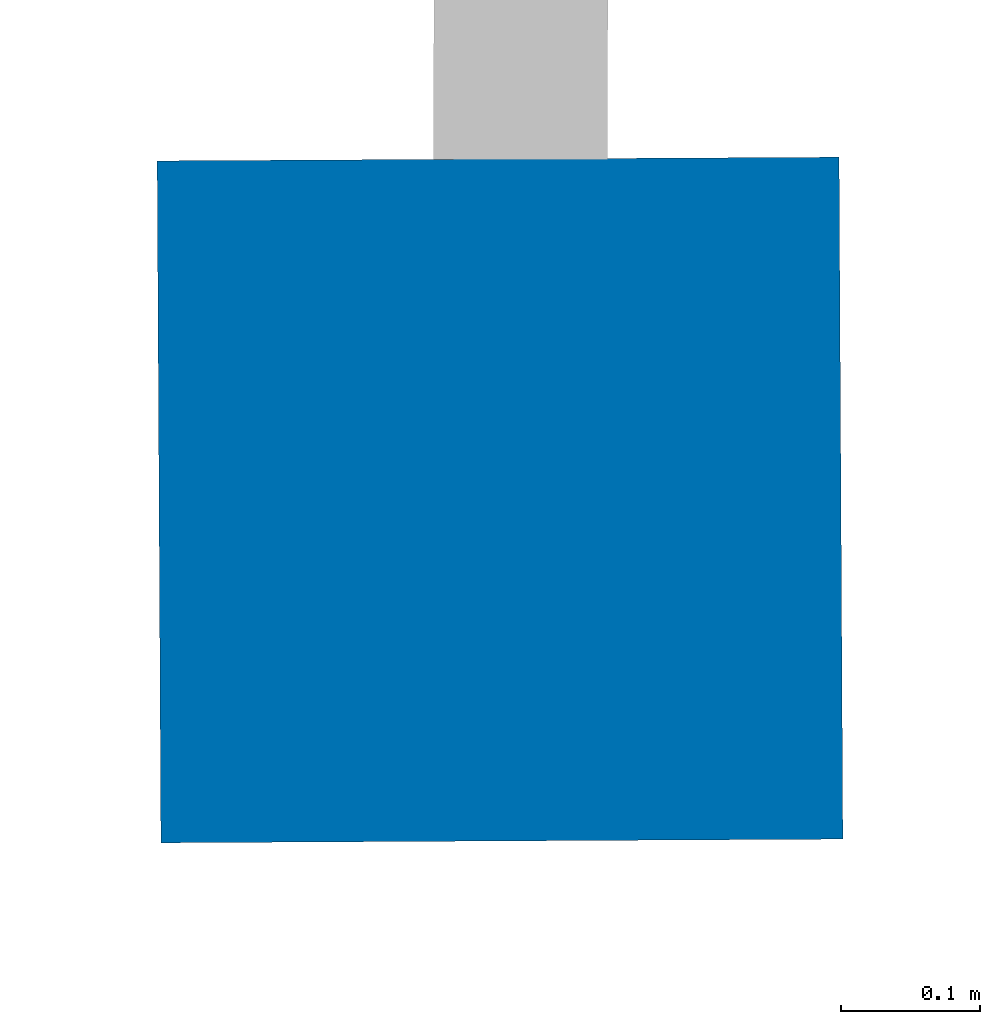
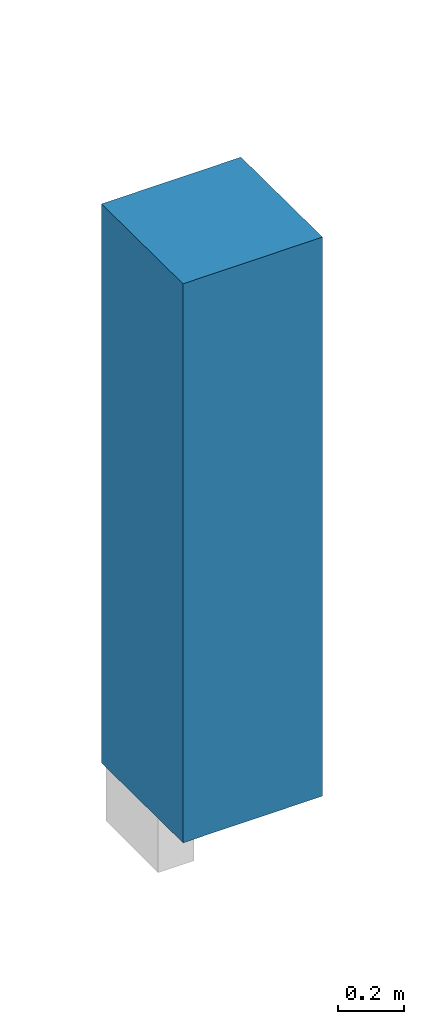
# One storey, part 5 of 196: 1 column.
"""IFC2X3 building model written with IfcOpenShell, lengths in metres."""

import ifcopenshell
import ifcopenshell.guid

model = None  # the IFC model being written
_history = None  # IfcOwnerHistory: only IFC2X3 demands one
_inside = {}  # id of a spatial element -> (the spatial element, [elements in it])
_under = {}  # id of a project, library or spatial element -> (it, [spatial elements below it])
_declared = {}  # id of a project -> (the project, [libraries it declares])
_typed = {}  # id of a type object -> (the type object, [elements of that type])
_made_of = {}  # id of a material, layer set ... -> (it, [elements and type objects made of it])


def new_model(schema):
    """Start an empty IFC model of exactly this schema.

    Asked for "IFC4X3", IfcOpenShell would pick the latest addendum, in which some entities
    have other attributes; the version numbers below select the first issue.
    IFC2X3 requires an IfcOwnerHistory on every rooted entity: one is made here for all.
    """
    global model, _history
    if schema == "IFC4X3":
        model = ifcopenshell.file(schema_version=(4, 3, 0, 0))
    else:
        model = ifcopenshell.file(schema=schema)
    _inside.clear()
    _under.clear()
    _declared.clear()
    _typed.clear()
    _made_of.clear()
    _history = None
    if model.schema == "IFC2X3":
        org = make("IfcOrganization", Name="unknown")
        user = make(
            "IfcPersonAndOrganization",
            ThePerson=make("IfcPerson", FamilyName="unknown"),
            TheOrganization=org,
        )
        app = make(
            "IfcApplication",
            ApplicationDeveloper=org,
            Version="unknown",
            ApplicationFullName="unknown",
            ApplicationIdentifier="unknown",
        )
        _history = make(
            "IfcOwnerHistory",
            OwningUser=user,
            OwningApplication=app,
            ChangeAction="ADDED",
            CreationDate=0,
        )
    return model


def make(cls, **values):
    """One entity of the class cls with the attributes given. An attribute that is None is left unset."""
    return model.create_entity(
        cls, **{name: value for name, value in values.items() if value is not None}
    )


def entity(cls, *values):
    """Any entity or typed value of the class cls, its attributes in the order of the schema. None: left unset."""
    e = model.create_entity(cls)
    for i, value in enumerate(values):
        if value is not None:
            e[i] = value
    return e


def rooted(cls, **values):
    """An entity with a GlobalId (a new one), such as an element, a storey or a relation."""
    return make(cls, GlobalId=ifcopenshell.guid.new(), OwnerHistory=_history, **values)


def si_unit(unit_type, name, prefix=None):
    """IfcSIUnit, for example si_unit("LENGTHUNIT", "METRE", prefix="MILLI")."""
    return make("IfcSIUnit", UnitType=unit_type, Prefix=prefix, Name=name)


def converted_unit(unit_type, name, factor, base, dimensions=None, offset=None):
    """IfcConversionBasedUnit, such as the inch: factor (a typed value) times the base unit."""
    return make(
        "IfcConversionBasedUnit"
        if offset is None
        else "IfcConversionBasedUnitWithOffset",
        ConversionOffset=offset,
        Dimensions=None
        if dimensions is None
        else entity("IfcDimensionalExponents", *dimensions),
        UnitType=unit_type,
        Name=name,
        ConversionFactor=make(
            "IfcMeasureWithUnit", ValueComponent=factor, UnitComponent=base
        ),
    )


def derived_unit(unit_type, elements):
    """IfcDerivedUnit: a product of units, each with its exponent."""
    return make(
        "IfcDerivedUnit",
        Elements=[
            make("IfcDerivedUnitElement", Unit=unit, Exponent=power)
            for unit, power in elements
        ],
        UnitType=unit_type,
    )


def money_unit(currency):
    """IfcMonetaryUnit."""
    return make("IfcMonetaryUnit", Currency=currency)


def assignment(units):
    """IfcUnitAssignment: the units of a project."""
    return None if units is None else make("IfcUnitAssignment", Units=units)


def point(xyz):
    """IfcCartesianPoint."""
    return None if xyz is None else make("IfcCartesianPoint", Coordinates=xyz)


def direction(xyz):
    """IfcDirection."""
    return None if xyz is None else make("IfcDirection", DirectionRatios=xyz)


def frame(location, z_axis=None, x_axis=None):
    """IfcAxis2Placement3D, a coordinate frame: its origin and axes. An axis left out is left unset."""
    return make(
        "IfcAxis2Placement3D",
        Location=point(location),
        Axis=direction(z_axis),
        RefDirection=direction(x_axis),
    )


def frame_2d(location, x_axis=None):
    """IfcAxis2Placement2D, a coordinate frame in the plane: its origin and x axis."""
    return make(
        "IfcAxis2Placement2D", Location=point(location), RefDirection=direction(x_axis)
    )


def origin_with_axes():
    """The frame at (0, 0, 0) with the z axis (0, 0, 1) and the x axis (1, 0, 0) written out."""
    return frame((0.0, 0.0, 0.0), z_axis=(0.0, 0.0, 1.0), x_axis=(1.0, 0.0, 0.0))


def origin_2d_with_axis():
    """The frame at (0, 0) in the plane with the x axis (1, 0) written out."""
    return frame_2d((0.0, 0.0), x_axis=(1.0, 0.0))


def place(relative_to, where):
    """IfcLocalPlacement: puts the frame where relative to a parent placement (None: the world)."""
    return make(
        "IfcLocalPlacement", PlacementRelTo=relative_to, RelativePlacement=where
    )


def context(
    kind, dimensions, precision=None, world=None, true_north=None, identifier=None
):
    """IfcGeometricRepresentationContext, for example the 3D "Model" context."""
    return make(
        "IfcGeometricRepresentationContext",
        ContextIdentifier=identifier,
        ContextType=kind,
        CoordinateSpaceDimension=dimensions,
        Precision=precision,
        WorldCoordinateSystem=world,
        TrueNorth=true_north,
    )


def subcontext(parent, identifier, kind, view, scale=None):
    """IfcGeometricRepresentationSubContext, for example "Body" below "Model"."""
    return make(
        "IfcGeometricRepresentationSubContext",
        ContextIdentifier=identifier,
        ContextType=kind,
        ParentContext=parent,
        TargetScale=scale,
        TargetView=view,
    )


def project(units=None, contexts=None):
    """IfcProject with its units and contexts."""
    return rooted(
        "IfcProject",
        Name="project",
        RepresentationContexts=contexts,
        UnitsInContext=assignment(units),
    )


def spatial(cls, under=None, at=None, **own):
    """A site, building, storey or space (cls), placed at a placement, below another one or the project."""
    s = rooted(cls, ObjectPlacement=at, **own)
    if under is not None:
        _under.setdefault(under.id(), (under, []))[1].append(s)
    return s


def profile(cls, at=None, kind="AREA", **sizes):
    """A parametric profile (cls). Its sizes go by their IFC names, for example OverallWidth=200.0."""
    return make(cls, ProfileType=kind, Position=at, **sizes)


def rectangle(**sizes):
    """IfcRectangleProfileDef."""
    return profile("IfcRectangleProfileDef", **sizes)


def extrude(swept, where, along, depth):
    """IfcExtrudedAreaSolid: the profile swept, set in the frame where, extruded along a direction by depth."""
    return make(
        "IfcExtrudedAreaSolid",
        SweptArea=swept,
        Position=where,
        ExtrudedDirection=direction(along),
        Depth=depth,
    )


def shape(context_of_items, identifier, shape_type, items):
    """IfcShapeRepresentation: the items that make up one representation, for example the "Body"."""
    return make(
        "IfcShapeRepresentation",
        ContextOfItems=context_of_items,
        RepresentationIdentifier=identifier,
        RepresentationType=shape_type,
        Items=items,
    )


def material(Name=None, Category=None):
    """IfcMaterial."""
    return make("IfcMaterial", Name=Name, Category=Category)


def made_of(thing, what):
    """Note that an element or type object is made of a material, layer set ...; save() writes the relation."""
    if what is not None:
        _made_of.setdefault(what.id(), (what, []))[1].append(thing)
    return thing


def type_object(cls, material=None, **own):
    """A type object (cls), such as IfcWallType, which elements share."""
    return made_of(rooted(cls, **own), material)


def element(
    cls,
    number,
    at=None,
    inside=None,
    cuts=None,
    type_object=None,
    material=None,
    context=None,
    identifier="Body",
    shape_type=None,
    held_by="IfcProductDefinitionShape",
    body=None,
    shapes=None,
    **own,
):
    """One element of the class cls, such as IfcWall. Its Tag is "e" and its number.

    at: its placement. inside: the storey or other place that contains it. cuts: it is an
    opening in that element (IfcRelVoidsElement). A single representation is given by context,
    identifier, shape_type and body (its items); several are given by shapes. held_by: the class
    of the entity that holds the representations. save() writes the other relations.
    """
    e = rooted(cls, Tag="e%d" % number, ObjectPlacement=at, **own)
    if body is not None:
        shapes = [shape(context, identifier, shape_type, body)]
    if shapes is not None:
        e.Representation = make(held_by, Representations=shapes)
    if inside is not None:
        _inside.setdefault(inside.id(), (inside, []))[1].append(e)
    if cuts is not None:
        rooted(
            "IfcRelVoidsElement", RelatingBuildingElement=cuts, RelatedOpeningElement=e
        )
    if type_object is not None:
        _typed.setdefault(type_object.id(), (type_object, []))[1].append(e)
    return made_of(e, material)


def aggregate(whole, parts):
    """IfcRelAggregates: a whole, such as a stair, and the parts it consists of."""
    return rooted("IfcRelAggregates", RelatingObject=whole, RelatedObjects=parts)


def save(model, path):
    """Write the relations noted so far, then the file.

    IfcRelAggregates (storeys below a building ...), IfcRelContainedInSpatialStructure (elements
    in a storey), IfcRelDefinesByType, IfcRelAssociatesMaterial and IfcRelDeclares: one each for
    every whole, place, type object, material and project.
    """
    for whole, parts in _under.values():
        aggregate(whole, parts)
    for where, things in _inside.values():
        rooted(
            "IfcRelContainedInSpatialStructure",
            RelatedElements=things,
            RelatingStructure=where,
        )
    for kind, things in _typed.values():
        rooted("IfcRelDefinesByType", RelatedObjects=things, RelatingType=kind)
    for what, things in _made_of.values():
        rooted("IfcRelAssociatesMaterial", RelatedObjects=things, RelatingMaterial=what)
    for by, libraries in _declared.values():
        rooted("IfcRelDeclares", RelatingContext=by, RelatedDefinitions=libraries)
    model.write(path)


model = new_model("IFC2X3")

# Units and contexts
model_context = context("Model", 3, precision=1e-05, world=origin_with_axes(), true_north=direction((0.0, 1.0)))
body_context = subcontext(model_context, "Body", "Model", "MODEL_VIEW")
ifc_project = project(units=[si_unit("LENGTHUNIT", "METRE"), si_unit("AREAUNIT", "SQUARE_METRE"), si_unit("VOLUMEUNIT", "CUBIC_METRE"), converted_unit("PLANEANGLEUNIT", "DEGREE", entity("IfcPlaneAngleMeasure", 0.0174532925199), si_unit("PLANEANGLEUNIT", "RADIAN"), dimensions=[0, 0, 0, 0, 0, 0, 0]), money_unit("EUR"), converted_unit("TIMEUNIT", "Year", entity("IfcTimeMeasure", 31556926.0), si_unit("TIMEUNIT", "SECOND"), dimensions=[0, 0, 1, 0, 0, 0, 0]), si_unit("MASSUNIT", "GRAM", prefix="KILO"), si_unit("THERMODYNAMICTEMPERATUREUNIT", "DEGREE_CELSIUS"), si_unit("LUMINOUSINTENSITYUNIT", "LUMEN"), si_unit("ENERGYUNIT", "JOULE", prefix="MEGA"), derived_unit("THERMALCONDUCTANCEUNIT", [(si_unit("POWERUNIT", "WATT"), 1), (si_unit("LENGTHUNIT", "METRE"), -1), (si_unit("THERMODYNAMICTEMPERATUREUNIT", "KELVIN"), -1)]), derived_unit("SPECIFICHEATCAPACITYUNIT", [(si_unit("ENERGYUNIT", "JOULE"), 1), (si_unit("MASSUNIT", "GRAM", prefix="KILO"), -1), (si_unit("THERMODYNAMICTEMPERATUREUNIT", "KELVIN"), -1)]), derived_unit("MASSDENSITYUNIT", [(si_unit("MASSUNIT", "GRAM", prefix="KILO"), 1), (si_unit("VOLUMEUNIT", "CUBIC_METRE"), -1)])], contexts=[model_context])

# Site, building, storey
site_placement = place(None, origin_with_axes())
site = spatial("IfcSite", under=ifc_project, at=site_placement, Name="Gelände", CompositionType="ELEMENT")
building_placement = place(site_placement, origin_with_axes())
building = spatial("IfcBuilding", under=site, at=building_placement, Name="Gebäude", CompositionType="ELEMENT")
storey_placement = place(building_placement, frame((0.0, 0.0, -3.0), z_axis=(0.0, 0.0, 1.0), x_axis=(1.0, 0.0, 0.0)))
storey = spatial("IfcBuildingStorey", under=building, at=storey_placement, Name="KELLERGESCHOSS", CompositionType="ELEMENT", Elevation=-3.0)

# Column
ifc_material = material(Name="05_ALLGEMEIN - TRAGENDE BAUTEILE")
column_type = type_object("IfcColumnType", Name="05_ALLGEMEIN - TRAGENDE BAUTEILE 490 x 490", PredefinedType="USERDEFINED")
column_placement = place(storey_placement, frame((28.4464416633, 34.8387252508, 0.376765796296), z_axis=(0.0, 0.0, 1.0), x_axis=(1.0, 0.0, 0.0)))
element("IfcColumn", 1, at=column_placement, inside=storey, type_object=column_type, material=ifc_material, Name="Stütze-008", ObjectType="PILASTER", context=body_context, shape_type="SweptSolid", body=[
    extrude(rectangle(XDim=0.49, YDim=0.49, at=origin_2d_with_axis()), frame((0.0, 0.0, 0.0), z_axis=(0.0, 0.0, 1.0), x_axis=(-0.999985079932, -0.00546259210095, 0.0)), (0.0, 0.0, 1.0), 2.07096162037),
])

save(model, "model.ifc")
